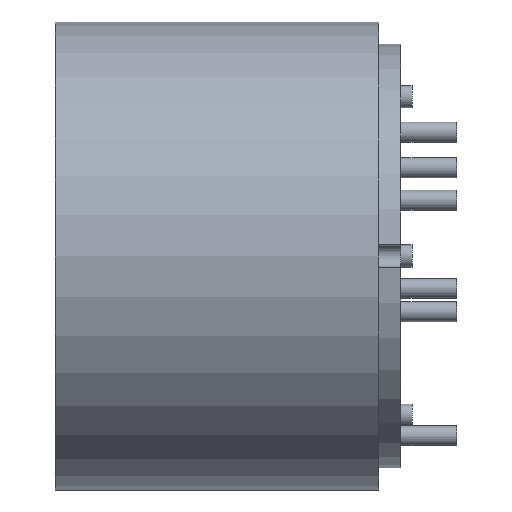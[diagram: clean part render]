
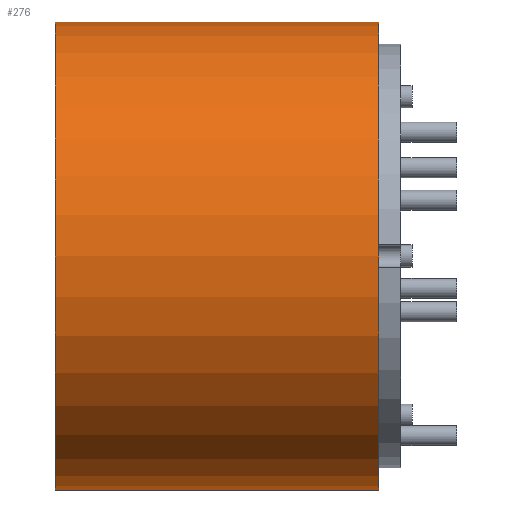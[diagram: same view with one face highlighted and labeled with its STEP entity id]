
A CAD part, left-side view. The second image highlights one B-rep face of the part: STEP entity #276.
In plain terms, the highlighted cylindrical face has radius 21 mm (diameter 42 mm), a full revolution.
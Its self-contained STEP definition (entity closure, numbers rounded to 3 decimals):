
#41=FACE_BOUND('',#105,.T.);
#70=FACE_OUTER_BOUND('',#104,.T.);
#104=EDGE_LOOP('',(#223));
#105=EDGE_LOOP('',(#224));
#137=CIRCLE('',#326,21.);
#140=CIRCLE('',#330,21.);
#161=VERTEX_POINT('',#493);
#164=VERTEX_POINT('',#500);
#185=EDGE_CURVE('',#161,#161,#137,.T.);
#188=EDGE_CURVE('',#164,#164,#140,.T.);
#223=ORIENTED_EDGE('',*,*,#188,.F.);
#224=ORIENTED_EDGE('',*,*,#185,.F.);
#254=CYLINDRICAL_SURFACE('',#329,21.);
#276=ADVANCED_FACE('',(#70,#41),#254,.T.);
#326=AXIS2_PLACEMENT_3D('',#494,#413,#414);
#329=AXIS2_PLACEMENT_3D('',#499,#419,#420);
#330=AXIS2_PLACEMENT_3D('',#501,#421,#422);
#413=DIRECTION('center_axis',(0.,-1.,0.));
#414=DIRECTION('ref_axis',(1.,0.,0.));
#419=DIRECTION('center_axis',(0.,1.,0.));
#420=DIRECTION('ref_axis',(1.,0.,0.));
#421=DIRECTION('center_axis',(0.,1.,0.));
#422=DIRECTION('ref_axis',(1.,0.,0.));
#493=CARTESIAN_POINT('',(-21.,0.,0.));
#494=CARTESIAN_POINT('Origin',(0.,0.,0.));
#499=CARTESIAN_POINT('Origin',(0.,0.,0.));
#500=CARTESIAN_POINT('',(-21.,29.,0.));
#501=CARTESIAN_POINT('Origin',(0.,29.,0.));
